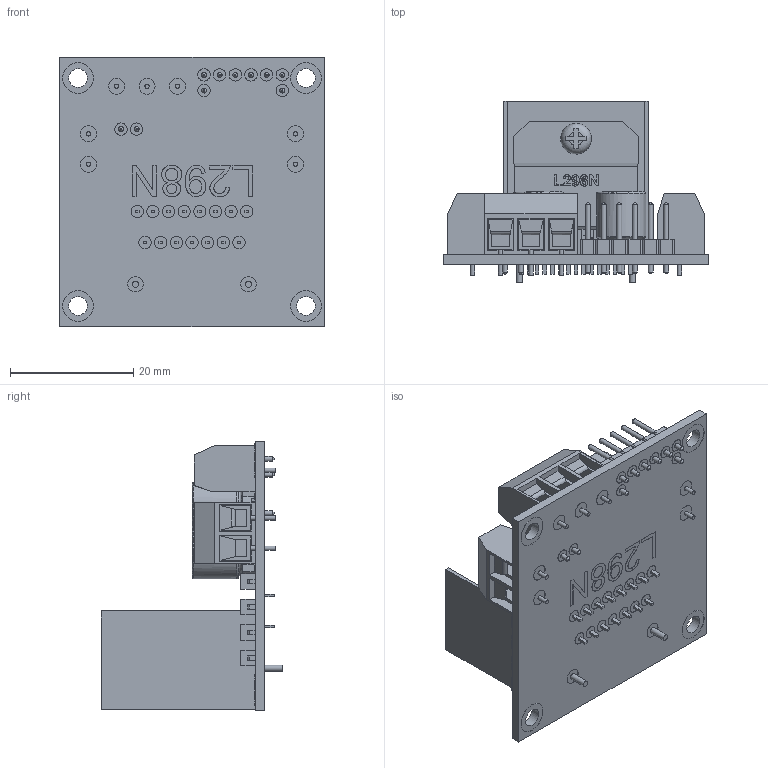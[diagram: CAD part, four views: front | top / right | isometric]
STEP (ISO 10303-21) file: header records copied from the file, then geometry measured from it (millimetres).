
FILE_DESCRIPTION(/* description */ ('STEP AP242 Edition 2','CAx-IF Rec.Pracs.---Representation and Presentation of Product Manufacturing Information (PMI)---4.0---2014-10-13','CAx-IF Rec.Pracs.---3D Tessellated Geometry---0.4---2014-09-14','2;1','CAx-IF Rec.Pracs.---User Defined Attributes---1.5---2016-08-15'),/* implementation_level */ '2;1');
FILE_NAME(/* name */ 'Assem2h - p_L298N_V2',/* time_stamp */ '2025-12-01T14:50:27Z',/* author */ (''),/* organization */ (''),/* preprocessor_version */ 'ST-DEVELOPER v20',/* originating_system */ 'ONSHAPE BY PTC INC, 1.207',/* authorisation */ ' ');
FILE_SCHEMA (('AP242_MANAGED_MODEL_BASED_3D_ENGINEERING_MIM_LF { 1 0 10303 442 3 1 4 }'));
Products named in the file (1): p_L298N_V2
Bounding box: 43 x 29.51 x 43.75 mm (x, y, z)
Volume: 9021.8 mm3; surface area: 14331 mm2
Topology: 1 solids, 1 shells, 2757 faces, 7335 edges, 4851 vertices
Faces by surface type: plane 1855, bspline 491, cylinder 369, cone 21, torus 16, sphere 5
Full cylindrical faces by diameter (mm): 0.273 x1, 0.7 x21, 0.8 x20, 0.98 x2, 1 x2, 1.1 x1, 1.6 x2, 2 x25, 2.4 x7, 2.5 x2, 2.6 x7, 2.9 x1, 3 x5, 3.3 x7, 3.4 x7, 3.65 x1, 5 x9, 8 x4
Entity records: 111294 total; most frequent: CARTESIAN_POINT 27390, ORIENTED_EDGE 14232, DIRECTION 11159, EDGE_CURVE 7116, LINE 5069, VECTOR 5069, VERTEX_POINT 4804, EDGE_LOOP 3256
